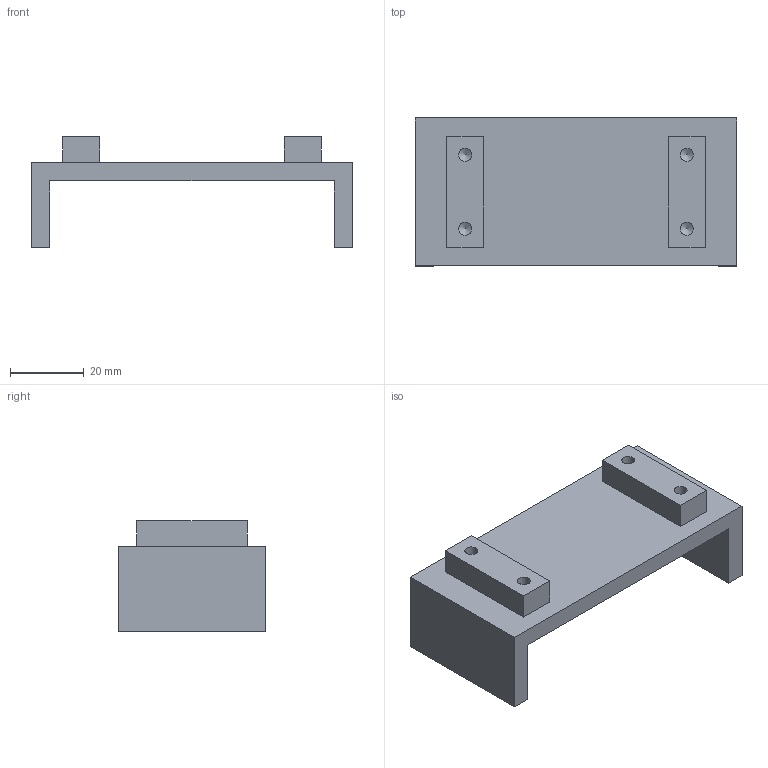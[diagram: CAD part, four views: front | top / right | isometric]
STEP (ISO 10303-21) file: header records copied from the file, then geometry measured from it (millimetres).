
FILE_DESCRIPTION(/* description */ ('STEP AP242 Edition 2','CAx-IF Rec.Pracs.---Representation and Presentation of Product Manufacturing Information (PMI)---4.0---2014-10-13','CAx-IF Rec.Pracs.---3D Tessellated Geometry---0.4---2014-09-14','2;1','CAx-IF Rec.Pracs.---User Defined Attributes---1.5---2016-08-15'),/* implementation_level */ '2;1');
FILE_NAME(/* name */ 'Tarok - Total Assemply - Second PBD holder',/* time_stamp */ '2026-05-23T09:34:08Z',/* author */ (''),/* organization */ (''),/* preprocessor_version */ 'ST-DEVELOPER v20',/* originating_system */ 'ONSHAPE BY PTC INC, 1.215',/* authorisation */ ' ');
FILE_SCHEMA (('AP242_MANAGED_MODEL_BASED_3D_ENGINEERING_MIM_LF { 1 0 10303 442 3 1 4 }'));
Length unit declared in the file: metre
Products named in the file (1): Second PBD holder
Bounding box: 87 x 40 x 30 mm (x, y, z)
Volume: 28594.1 mm3; surface area: 12816.3 mm2
Topology: 1 solids, 1 shells, 28 faces, 68 edges, 44 vertices
Faces by surface type: plane 20, cylinder 4, cone 4
Full cylindrical faces by diameter (mm): 3.5 x4
Entity records: 770 total; most frequent: CARTESIAN_POINT 129, DIRECTION 122, ORIENTED_EDGE 112, EDGE_CURVE 56, LINE 48, VECTOR 48, VERTEX_POINT 44, FACE_BOUND 42
